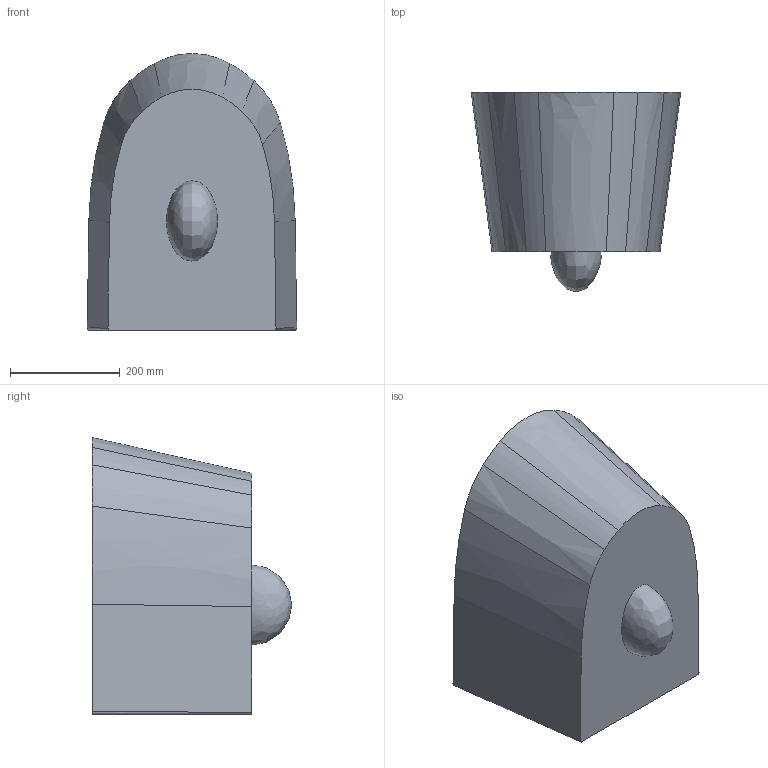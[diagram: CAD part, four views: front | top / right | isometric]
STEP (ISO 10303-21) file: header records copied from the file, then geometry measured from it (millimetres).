
FILE_DESCRIPTION(('FreeCAD Model'),'2;1');
FILE_NAME('Open CASCADE Shape Model','2025-05-30T21:09:54',(''),(''), 'Open CASCADE STEP processor 7.8','FreeCAD','Unknown');
FILE_SCHEMA(('AUTOMOTIVE_DESIGN { 1 0 10303 214 1 1 1 1 }'));
Length unit declared in the file: millimetre
Products named in the file (4): TopLevelAssembly; Obr\X\F3t profilu; Wyci\X2\0105\X0\ganie001; Po\X2\01420105\X0\czona geometria bry\X2\0142\X0\owa
Assembly tree (3 placements, depth 2):
  TopLevelAssembly
    Obr\X\F3t profilu
    Wyci\X2\0105\X0\ganie001
    Po\X2\01420105\X0\czona geometria bry\X2\0142\X0\owa
Bounding box: 381.54 x 363 x 504.5 mm (x, y, z)
Volume: 31983618.5 mm3; surface area: 883276.4 mm2
Topology: 3 solids, 3 shells, 38 faces, 89 edges, 58 vertices
Faces by surface type: bspline 20, plane 12, cylinder 6
Entity records: 1544 total; most frequent: CARTESIAN_POINT 604, DIRECTION 179, ORIENTED_EDGE 174, EDGE_CURVE 87, AXIS2_PLACEMENT_3D 72, VERTEX_POINT 58, CIRCLE 50, FACE_BOUND 41
